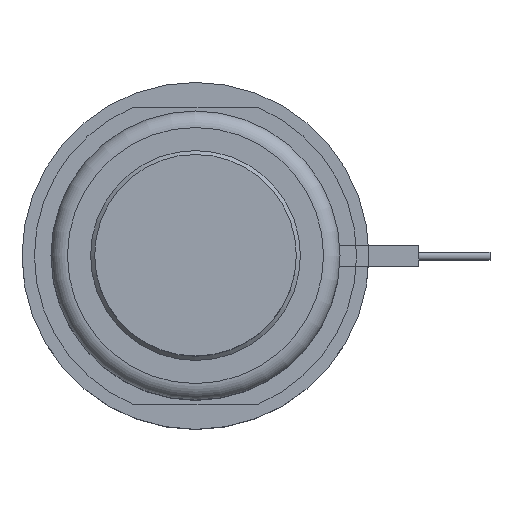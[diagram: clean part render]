
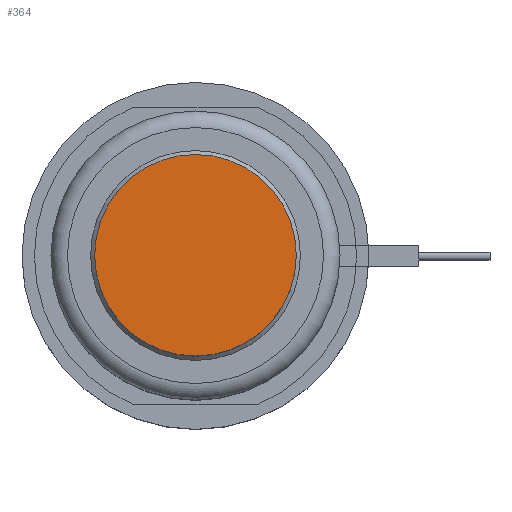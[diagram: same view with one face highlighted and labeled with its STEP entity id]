
A CAD part, top view. The second image highlights one B-rep face of the part: STEP entity #364.
In plain terms, the highlighted planar face has unit normal (0, 0, 1).
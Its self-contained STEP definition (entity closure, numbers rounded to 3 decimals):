
#236=PLANE('',#1304);
#282=FACE_OUTER_BOUND('',#573,.T.);
#364=ADVANCED_FACE('',(#282),#236,.F.);
#573=EDGE_LOOP('',(#715));
#715=ORIENTED_EDGE('',*,*,#1079,.F.);
#972=VERTEX_POINT('',#1867);
#1079=EDGE_CURVE('',#972,#972,#1213,.T.);
#1213=CIRCLE('',#1303,12.2);
#1303=AXIS2_PLACEMENT_3D('',#1866,#1500,#1501);
#1304=AXIS2_PLACEMENT_3D('',#1868,#1502,#1503);
#1500=DIRECTION('',(0.,0.,-1.));
#1501=DIRECTION('',(-1.,0.,0.));
#1502=DIRECTION('',(0.,0.,-1.));
#1503=DIRECTION('',(-1.,0.,0.));
#1866=CARTESIAN_POINT('',(0.,0.,18.));
#1867=CARTESIAN_POINT('',(-12.2,0.,18.));
#1868=CARTESIAN_POINT('',(0.,0.,18.));
